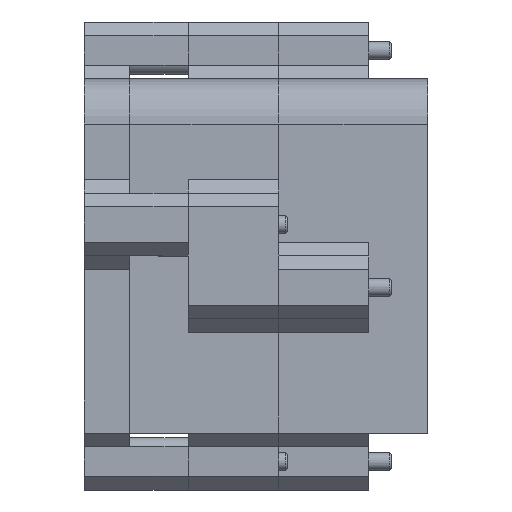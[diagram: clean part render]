
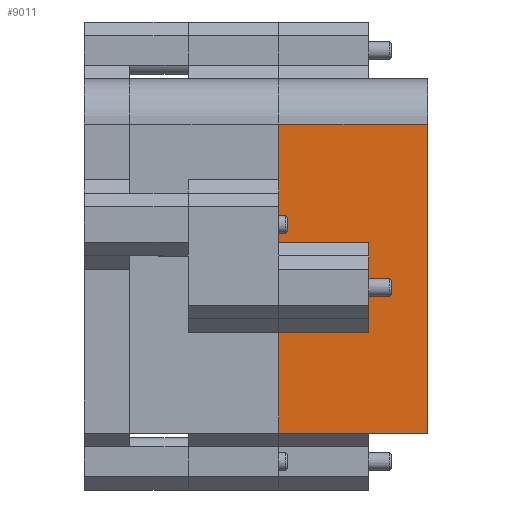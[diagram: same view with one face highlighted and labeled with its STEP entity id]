
A CAD part, front view. The second image highlights one B-rep face of the part: STEP entity #9011.
In plain terms, the highlighted planar face has unit normal (0, -1, 0).
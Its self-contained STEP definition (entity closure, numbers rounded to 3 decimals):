
#512=FACE_OUTER_BOUND('',#1004,.T.);
#1004=EDGE_LOOP('',(#5979,#5980,#5981,#5982,#5983,#5984,#5985,#5986));
#1944=LINE('',#13378,#2809);
#1947=LINE('',#13385,#2812);
#1950=LINE('',#13391,#2815);
#1951=LINE('',#13393,#2816);
#1952=LINE('',#13395,#2817);
#1953=LINE('',#13396,#2818);
#1954=LINE('',#13398,#2819);
#1955=LINE('',#13399,#2820);
#2809=VECTOR('',#10824,10.);
#2812=VECTOR('',#10829,10.);
#2815=VECTOR('',#10834,10.);
#2816=VECTOR('',#10835,10.);
#2817=VECTOR('',#10836,10.);
#2818=VECTOR('',#10837,10.);
#2819=VECTOR('',#10838,10.);
#2820=VECTOR('',#10839,10.);
#3687=VERTEX_POINT('',#13375);
#3688=VERTEX_POINT('',#13377);
#3690=VERTEX_POINT('',#13382);
#3691=VERTEX_POINT('',#13384);
#3693=VERTEX_POINT('',#13390);
#3694=VERTEX_POINT('',#13392);
#3695=VERTEX_POINT('',#13394);
#3696=VERTEX_POINT('',#13397);
#4561=EDGE_CURVE('',#3687,#3688,#1944,.T.);
#4564=EDGE_CURVE('',#3690,#3691,#1947,.T.);
#4567=EDGE_CURVE('',#3690,#3693,#1950,.T.);
#4568=EDGE_CURVE('',#3694,#3693,#1951,.T.);
#4569=EDGE_CURVE('',#3695,#3694,#1952,.T.);
#4570=EDGE_CURVE('',#3695,#3688,#1953,.T.);
#4571=EDGE_CURVE('',#3696,#3687,#1954,.T.);
#4572=EDGE_CURVE('',#3691,#3696,#1955,.T.);
#5979=ORIENTED_EDGE('',*,*,#4564,.F.);
#5980=ORIENTED_EDGE('',*,*,#4567,.T.);
#5981=ORIENTED_EDGE('',*,*,#4568,.F.);
#5982=ORIENTED_EDGE('',*,*,#4569,.F.);
#5983=ORIENTED_EDGE('',*,*,#4570,.T.);
#5984=ORIENTED_EDGE('',*,*,#4561,.F.);
#5985=ORIENTED_EDGE('',*,*,#4571,.F.);
#5986=ORIENTED_EDGE('',*,*,#4572,.F.);
#8221=PLANE('',#9733);
#9011=ADVANCED_FACE('',(#512),#8221,.T.);
#9733=AXIS2_PLACEMENT_3D('',#13389,#10832,#10833);
#10824=DIRECTION('',(0.,0.,-1.));
#10829=DIRECTION('',(-1.,0.,0.));
#10832=DIRECTION('center_axis',(0.,-1.,0.));
#10833=DIRECTION('ref_axis',(0.,0.,-1.));
#10834=DIRECTION('',(0.,0.,-1.));
#10835=DIRECTION('',(1.,0.,0.));
#10836=DIRECTION('',(0.,0.,1.));
#10837=DIRECTION('',(1.,0.,0.));
#10838=DIRECTION('',(1.,0.,0.));
#10839=DIRECTION('',(0.,0.,1.));
#13375=CARTESIAN_POINT('',(16.5,-6.,14.616));
#13377=CARTESIAN_POINT('',(16.5,-6.,-19.616));
#13378=CARTESIAN_POINT('',(16.5,-6.,14.616));
#13382=CARTESIAN_POINT('',(10.,-6.,1.5));
#13384=CARTESIAN_POINT('',(0.,-6.,1.5));
#13385=CARTESIAN_POINT('',(0.,-6.,1.5));
#13389=CARTESIAN_POINT('Origin',(0.,-6.,
0.));
#13390=CARTESIAN_POINT('',(10.,-6.,-8.465));
#13391=CARTESIAN_POINT('',(10.,-6.,-1.741));
#13392=CARTESIAN_POINT('',(0.,-6.,-8.465));
#13393=CARTESIAN_POINT('',(0.,-6.,-8.465));
#13394=CARTESIAN_POINT('',(0.,-6.,-19.616));
#13395=CARTESIAN_POINT('',(0.,-6.,0.));
#13396=CARTESIAN_POINT('',(-13.5,-6.,-19.616));
#13397=CARTESIAN_POINT('',(0.,-6.,14.616));
#13398=CARTESIAN_POINT('',(-6.75,-6.,14.616));
#13399=CARTESIAN_POINT('',(0.,-6.,0.));
